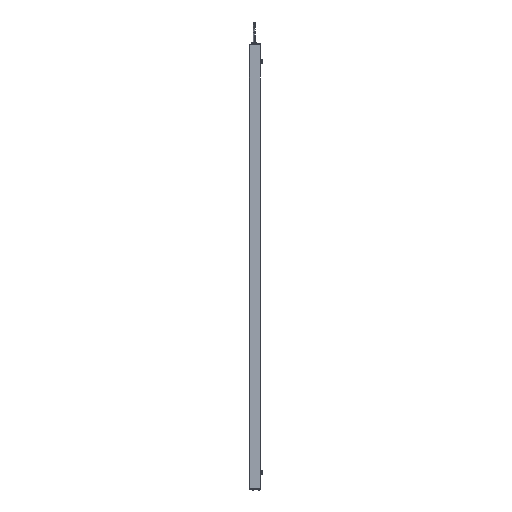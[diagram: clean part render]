
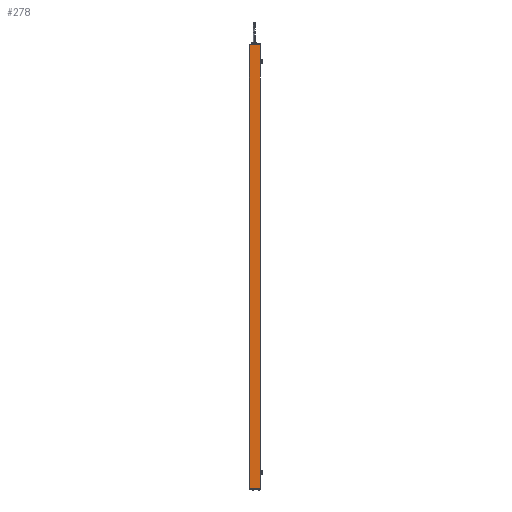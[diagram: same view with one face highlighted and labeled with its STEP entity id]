
A CAD part, left-side view. The second image highlights one B-rep face of the part: STEP entity #278.
In plain terms, the highlighted planar face has unit normal (-1, 0, 0).
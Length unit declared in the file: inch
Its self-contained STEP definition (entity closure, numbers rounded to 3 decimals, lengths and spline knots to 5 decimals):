
#278 = ADVANCED_FACE ( 'NONE', ( #2446 ), #4099, .F. ) ;
#507 = AXIS2_PLACEMENT_3D ( 'NONE', #17200, #15611, #6905 ) ;
#682 = DIRECTION ( 'NONE',  ( 0., 0., 1. ) ) ;
#708 = LINE ( 'NONE', #17443, #9526 ) ;
#751 = ORIENTED_EDGE ( 'NONE', *, *, #17649, .T. ) ;
#2083 = LINE ( 'NONE', #9371, #11620 ) ;
#2089 = DIRECTION ( 'NONE',  ( 0., -1., 0. ) ) ;
#2446 = FACE_OUTER_BOUND ( 'NONE', #12345, .T. ) ;
#3518 = CARTESIAN_POINT ( 'NONE',  ( -0.665, 0.015, -22.6875 ) ) ;
#4099 = PLANE ( 'NONE',  #507 ) ;
#4505 = CARTESIAN_POINT ( 'NONE',  ( -0.665, 0.015, 22.6875 ) ) ;
#4945 = VERTEX_POINT ( 'NONE', #3518 ) ;
#6526 = LINE ( 'NONE', #13658, #17227 ) ;
#6566 = VERTEX_POINT ( 'NONE', #6583 ) ;
#6583 = CARTESIAN_POINT ( 'NONE',  ( -0.665, 1.105, -22.6875 ) ) ;
#6905 = DIRECTION ( 'NONE',  ( 0., 0., -1. ) ) ;
#6992 = EDGE_CURVE ( 'NONE', #13529, #7268, #2083, .T. ) ;
#7268 = VERTEX_POINT ( 'NONE', #4505 ) ;
#7678 = CARTESIAN_POINT ( 'NONE',  ( -0.665, 0., -22.6875 ) ) ;
#8836 = DIRECTION ( 'NONE',  ( 0., 0., -1. ) ) ;
#9237 = ORIENTED_EDGE ( 'NONE', *, *, #11735, .T. ) ;
#9371 = CARTESIAN_POINT ( 'NONE',  ( -0.665, 0., 22.6875 ) ) ;
#9526 = VECTOR ( 'NONE', #8836, 39.37008 ) ;
#10473 = DIRECTION ( 'NONE',  ( 0., -1., 0. ) ) ;
#11620 = VECTOR ( 'NONE', #2089, 39.37008 ) ;
#11735 = EDGE_CURVE ( 'NONE', #6566, #4945, #14742, .T. ) ;
#12203 = EDGE_CURVE ( 'NONE', #4945, #7268, #6526, .T. ) ;
#12345 = EDGE_LOOP ( 'NONE', ( #18027, #751, #9237, #17605 ) ) ;
#13529 = VERTEX_POINT ( 'NONE', #15683 ) ;
#13658 = CARTESIAN_POINT ( 'NONE',  ( -0.665, 0.015, 22.6875 ) ) ;
#14742 = LINE ( 'NONE', #7678, #16295 ) ;
#15611 = DIRECTION ( 'NONE',  ( 1., 0., 0. ) ) ;
#15683 = CARTESIAN_POINT ( 'NONE',  ( -0.665, 1.105, 22.6875 ) ) ;
#16295 = VECTOR ( 'NONE', #10473, 39.37008 ) ;
#17200 = CARTESIAN_POINT ( 'NONE',  ( -0.665, 0., 22.6875 ) ) ;
#17227 = VECTOR ( 'NONE', #682, 39.37008 ) ;
#17443 = CARTESIAN_POINT ( 'NONE',  ( -0.665, 1.105, 22.6875 ) ) ;
#17605 = ORIENTED_EDGE ( 'NONE', *, *, #12203, .T. ) ;
#17649 = EDGE_CURVE ( 'NONE', #13529, #6566, #708, .T. ) ;
#18027 = ORIENTED_EDGE ( 'NONE', *, *, #6992, .F. ) ;
